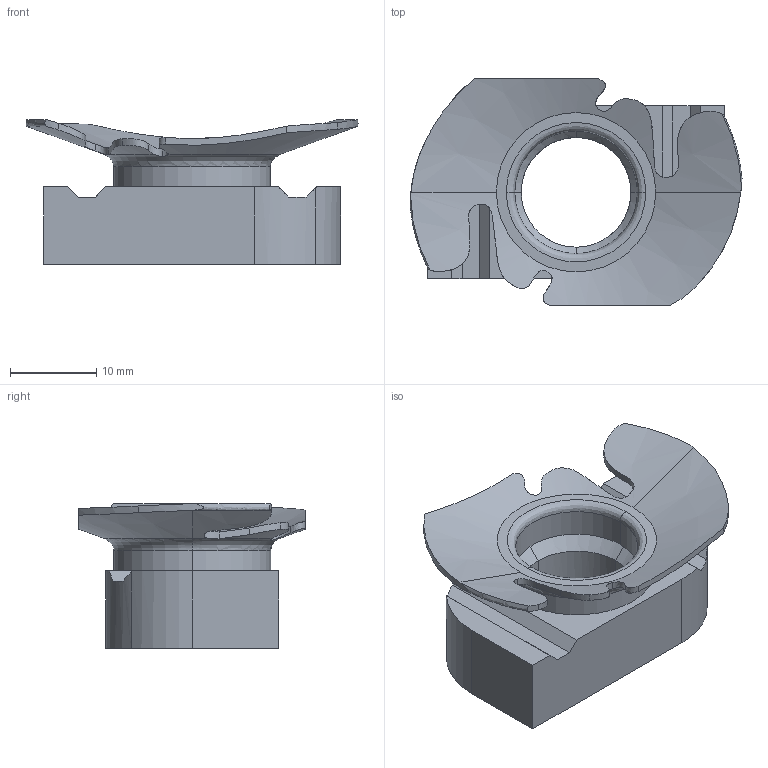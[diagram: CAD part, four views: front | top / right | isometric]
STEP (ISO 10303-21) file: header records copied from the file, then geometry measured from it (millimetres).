
FILE_DESCRIPTION(('TurboCAD Mac Pro'),'Build 980');
FILE_NAME('P1010T.stp',' ',(''),(''),'ACIS Interop','IMSI','TurboCAD Mac Pro BY IMSI, INCORPORATED');
FILE_SCHEMA(('automotive_design'));
Length unit declared in the file: inch
Products named in the file (1): 1
Bounding box: 38.45 x 26.22 x 16.78 mm (x, y, z)
Volume: 5264.1 mm3; surface area: 3912.8 mm2
Topology: 1 solids, 1 shells, 73 faces, 196 edges, 127 vertices
Faces by surface type: bspline 30, plane 20, cylinder 8, cone 8, revolution 7
Entity records: 3882 total; most frequent: CARTESIAN_POINT 1671, ORIENTED_EDGE 392, DIRECTION 233, EDGE_CURVE 196, VERTEX_POINT 127, B_SPLINE_CURVE_WITH_KNOTS 83, AXIS2_PLACEMENT_3D 77, EDGE_LOOP 77
